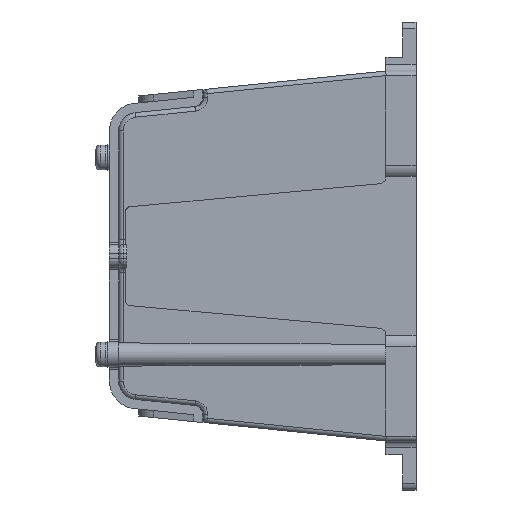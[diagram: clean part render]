
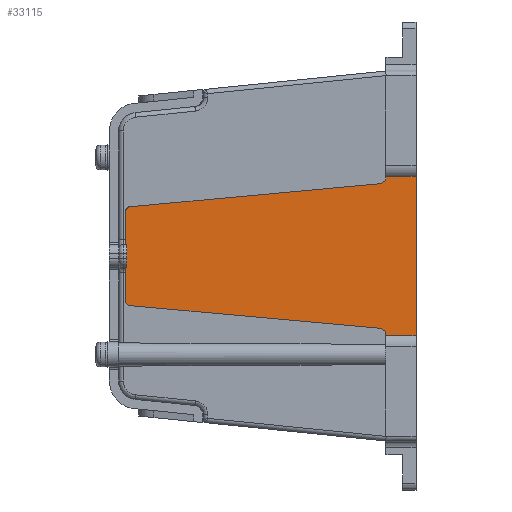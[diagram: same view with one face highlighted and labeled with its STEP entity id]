
A CAD part, left-side view. The second image highlights one B-rep face of the part: STEP entity #33115.
In plain terms, the highlighted planar face has unit normal (-1, 0, 0).
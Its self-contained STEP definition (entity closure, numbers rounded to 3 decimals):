
#1920=CIRCLE('',#36679,1.5);
#1921=CIRCLE('',#36683,1.);
#1928=CIRCLE('',#36748,1.);
#1929=CIRCLE('',#36752,1.5);
#12419=ORIENTED_EDGE('',*,*,#17596,.F.);
#12420=ORIENTED_EDGE('',*,*,#17597,.T.);
#12421=ORIENTED_EDGE('',*,*,#17571,.F.);
#12422=ORIENTED_EDGE('',*,*,#17577,.F.);
#12423=ORIENTED_EDGE('',*,*,#17580,.F.);
#12424=ORIENTED_EDGE('',*,*,#17583,.F.);
#12425=ORIENTED_EDGE('',*,*,#17598,.F.);
#12426=ORIENTED_EDGE('',*,*,#17587,.F.);
#12427=ORIENTED_EDGE('',*,*,#16724,.F.);
#12428=ORIENTED_EDGE('',*,*,#16718,.F.);
#12429=ORIENTED_EDGE('',*,*,#17456,.F.);
#12430=ORIENTED_EDGE('',*,*,#17458,.F.);
#12431=ORIENTED_EDGE('',*,*,#17461,.F.);
#12432=ORIENTED_EDGE('',*,*,#17464,.F.);
#12433=ORIENTED_EDGE('',*,*,#17469,.F.);
#12434=ORIENTED_EDGE('',*,*,#17599,.F.);
#16718=EDGE_CURVE('',#20273,#20271,#22926,.T.);
#16724=EDGE_CURVE('',#20271,#20277,#22929,.T.);
#17456=EDGE_CURVE('',#20599,#20273,#23435,.T.);
#17458=EDGE_CURVE('',#20601,#20599,#1920,.T.);
#17461=EDGE_CURVE('',#20603,#20601,#23438,.T.);
#17464=EDGE_CURVE('',#20605,#20603,#1921,.T.);
#17469=EDGE_CURVE('',#20608,#20605,#23443,.T.);
#17571=EDGE_CURVE('',#20647,#20648,#23525,.T.);
#17577=EDGE_CURVE('',#20653,#20647,#1928,.T.);
#17580=EDGE_CURVE('',#20655,#20653,#23531,.T.);
#17583=EDGE_CURVE('',#20657,#20655,#1929,.T.);
#17587=EDGE_CURVE('',#20277,#20659,#23535,.T.);
#17596=EDGE_CURVE('',#20664,#20665,#23540,.T.);
#17597=EDGE_CURVE('',#20664,#20648,#23541,.T.);
#17598=EDGE_CURVE('',#20659,#20657,#23542,.T.);
#17599=EDGE_CURVE('',#20665,#20608,#23543,.T.);
#20271=VERTEX_POINT('',#56512);
#20273=VERTEX_POINT('',#56516);
#20277=VERTEX_POINT('',#56529);
#20599=VERTEX_POINT('',#58430);
#20601=VERTEX_POINT('',#58435);
#20603=VERTEX_POINT('',#58441);
#20605=VERTEX_POINT('',#58447);
#20608=VERTEX_POINT('',#58456);
#20647=VERTEX_POINT('',#58682);
#20648=VERTEX_POINT('',#58683);
#20653=VERTEX_POINT('',#58694);
#20655=VERTEX_POINT('',#58700);
#20657=VERTEX_POINT('',#58706);
#20659=VERTEX_POINT('',#58712);
#20664=VERTEX_POINT('',#58747);
#20665=VERTEX_POINT('',#58748);
#22926=LINE('',#56517,#25805);
#22929=LINE('',#56528,#25808);
#23435=LINE('',#58431,#26314);
#23438=LINE('',#58442,#26317);
#23443=LINE('',#58457,#26322);
#23525=LINE('',#58681,#26404);
#23531=LINE('',#58701,#26410);
#23535=LINE('',#58714,#26414);
#23540=LINE('',#58746,#26419);
#23541=LINE('',#58749,#26420);
#23542=LINE('',#58750,#26421);
#23543=LINE('',#58751,#26422);
#25805=VECTOR('',#45004,1000.);
#25808=VECTOR('',#45017,1000.);
#26314=VECTOR('',#46575,1000.);
#26317=VECTOR('',#46586,1000.);
#26322=VECTOR('',#46601,1000.);
#26404=VECTOR('',#46801,1000.);
#26410=VECTOR('',#46817,1000.);
#26414=VECTOR('',#46831,1000.);
#26419=VECTOR('',#46852,1000.);
#26420=VECTOR('',#46853,1000.);
#26421=VECTOR('',#46854,1000.);
#26422=VECTOR('',#46855,1000.);
#28407=EDGE_LOOP('',(#12419,#12420,#12421,#12422,#12423,#12424,#12425,#12426,
#12427,#12428,#12429,#12430,#12431,#12432,#12433,#12434));
#30408=FACE_BOUND('',#28407,.T.);
#31248=PLANE('',#36763);
#33115=ADVANCED_FACE('',(#30408),#31248,.F.);
#36679=AXIS2_PLACEMENT_3D('',#58436,#46579,#46580);
#36683=AXIS2_PLACEMENT_3D('',#58448,#46591,#46592);
#36748=AXIS2_PLACEMENT_3D('',#58695,#46810,#46811);
#36752=AXIS2_PLACEMENT_3D('',#58707,#46822,#46823);
#36763=AXIS2_PLACEMENT_3D('',#58745,#46850,#46851);
#45004=DIRECTION('',(0.,-1.,0.));
#45017=DIRECTION('',(0.,0.,-1.));
#46575=DIRECTION('',(0.,0.,1.));
#46579=DIRECTION('',(-1.,0.,0.));
#46580=DIRECTION('',(0.,1.,0.));
#46586=DIRECTION('',(0.,-0.996,0.092));
#46591=DIRECTION('',(1.,0.,0.));
#46592=DIRECTION('',(0.,1.,0.));
#46601=DIRECTION('',(0.,0.,1.));
#46801=DIRECTION('',(0.,0.,1.));
#46810=DIRECTION('',(1.,0.,0.));
#46811=DIRECTION('',(0.,-1.,0.));
#46817=DIRECTION('',(0.,0.996,0.09));
#46822=DIRECTION('',(-1.,0.,0.));
#46823=DIRECTION('',(0.,1.,0.));
#46831=DIRECTION('',(0.,1.,0.));
#46850=DIRECTION('',(1.,0.,0.));
#46851=DIRECTION('',(0.,0.,-1.));
#46852=DIRECTION('',(0.,0.,1.));
#46853=DIRECTION('',(0.,1.,0.));
#46854=DIRECTION('',(0.,0.,1.));
#46855=DIRECTION('',(0.,1.,0.));
#56512=CARTESIAN_POINT('',(-74.1,0.,17.2));
#56516=CARTESIAN_POINT('',(-74.1,6.5,17.2));
#56517=CARTESIAN_POINT('',(-74.1,0.,17.2));
#56528=CARTESIAN_POINT('',(-74.1,0.,-17.2));
#56529=CARTESIAN_POINT('',(-74.1,0.,-17.2));
#58430=CARTESIAN_POINT('',(-74.1,6.5,17.118));
#58431=CARTESIAN_POINT('',(-74.1,6.5,17.118));
#58435=CARTESIAN_POINT('',(-74.1,7.862,15.624));
#58436=CARTESIAN_POINT('',(-74.1,8.,17.118));
#58441=CARTESIAN_POINT('',(-74.1,61.892,10.647));
#58442=CARTESIAN_POINT('',(-74.1,7.862,15.624));
#58447=CARTESIAN_POINT('',(-74.1,62.8,9.651));
#58448=CARTESIAN_POINT('',(-74.1,61.8,9.651));
#58456=CARTESIAN_POINT('',(-74.1,62.8,2.5));
#58457=CARTESIAN_POINT('',(-74.1,62.8,-9.723));
#58681=CARTESIAN_POINT('',(-74.1,62.8,-9.723));
#58682=CARTESIAN_POINT('',(-74.1,62.8,-9.723));
#58683=CARTESIAN_POINT('',(-74.1,62.8,-2.5));
#58694=CARTESIAN_POINT('',(-74.1,61.89,-10.719));
#58695=CARTESIAN_POINT('',(-74.1,61.8,-9.723));
#58700=CARTESIAN_POINT('',(-74.1,7.864,-15.626));
#58701=CARTESIAN_POINT('',(-74.1,7.864,-15.626));
#58706=CARTESIAN_POINT('',(-74.1,6.5,-17.12));
#58707=CARTESIAN_POINT('',(-74.1,8.,-17.12));
#58712=CARTESIAN_POINT('',(-74.1,6.5,-17.2));
#58714=CARTESIAN_POINT('',(-74.1,0.,-17.2));
#58745=CARTESIAN_POINT('',(-74.1,61.8,-9.723));
#58746=CARTESIAN_POINT('',(-74.1,62.6,-9.723));
#58747=CARTESIAN_POINT('',(-74.1,62.6,-2.5));
#58748=CARTESIAN_POINT('',(-74.1,62.6,2.5));
#58749=CARTESIAN_POINT('',(-74.1,62.6,-2.5));
#58750=CARTESIAN_POINT('',(-74.1,6.5,-17.12));
#58751=CARTESIAN_POINT('',(-74.1,62.6,2.5));
